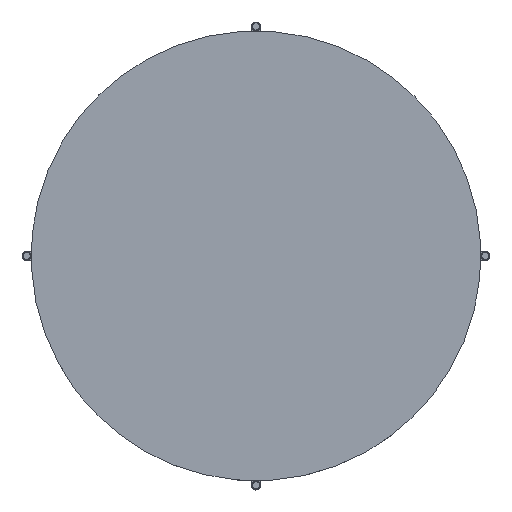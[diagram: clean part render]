
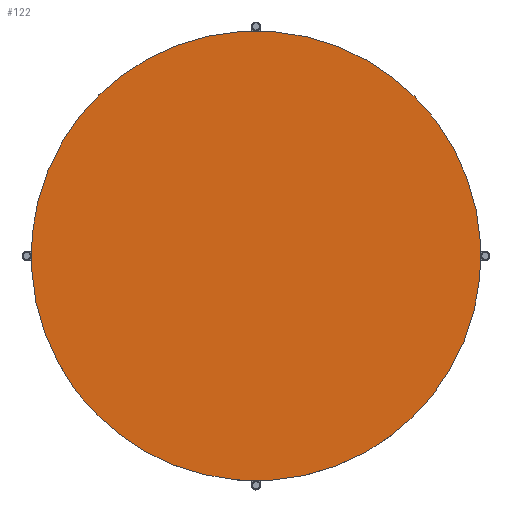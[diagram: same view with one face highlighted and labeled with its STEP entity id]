
A CAD part, top view. The second image highlights one B-rep face of the part: STEP entity #122.
In plain terms, the highlighted planar face has unit normal (0, 0, 1).
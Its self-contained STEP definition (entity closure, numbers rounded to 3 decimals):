
#122=ADVANCED_FACE('',(#170),#575,.T.);
#170=FACE_OUTER_BOUND('',#218,.T.);
#218=EDGE_LOOP('',(#270,#271));
#270=ORIENTED_EDGE('',*,*,#438,.T.);
#271=ORIENTED_EDGE('',*,*,#441,.T.);
#438=EDGE_CURVE('',#523,#525,#635,.T.);
#441=EDGE_CURVE('',#525,#523,#638,.T.);
#523=VERTEX_POINT('',#780);
#525=VERTEX_POINT('',#782);
#575=PLANE('',#696);
#635=(
BOUNDED_CURVE()
B_SPLINE_CURVE(2,(#790,#791,#792,#793,#794),.UNSPECIFIED.,.F.,.F.)
B_SPLINE_CURVE_WITH_KNOTS((3,2,3),(0.,78.54,157.08),
 .UNSPECIFIED.)
CURVE()
GEOMETRIC_REPRESENTATION_ITEM()
RATIONAL_B_SPLINE_CURVE((1.,0.707,1.,0.707,1.))
REPRESENTATION_ITEM('')
);
#638=(
BOUNDED_CURVE()
B_SPLINE_CURVE(2,(#802,#803,#804,#805,#806),.UNSPECIFIED.,.F.,.F.)
B_SPLINE_CURVE_WITH_KNOTS((3,2,3),(157.08,235.619,314.159),
 .UNSPECIFIED.)
CURVE()
GEOMETRIC_REPRESENTATION_ITEM()
RATIONAL_B_SPLINE_CURVE((1.,0.707,1.,0.707,1.))
REPRESENTATION_ITEM('')
);
#696=AXIS2_PLACEMENT_3D('',#768,#722,$);
#722=DIRECTION('',(0.,0.,1.));
#768=CARTESIAN_POINT('',(15815.042,-883.883,68.2));
#780=CARTESIAN_POINT('',(16168.595,353.553,68.2));
#782=CARTESIAN_POINT('',(15461.488,-353.553,68.2));
#790=CARTESIAN_POINT('',(16168.595,353.553,68.2));
#791=CARTESIAN_POINT('',(15815.042,707.107,68.2));
#792=CARTESIAN_POINT('',(15461.488,353.553,68.2));
#793=CARTESIAN_POINT('',(15107.935,0.,68.2));
#794=CARTESIAN_POINT('',(15461.488,-353.553,68.2));
#802=CARTESIAN_POINT('',(15461.488,-353.553,68.2));
#803=CARTESIAN_POINT('',(15815.042,-707.107,68.2));
#804=CARTESIAN_POINT('',(16168.595,-353.553,68.2));
#805=CARTESIAN_POINT('',(16522.149,0.,68.2));
#806=CARTESIAN_POINT('',(16168.595,353.553,68.2));
